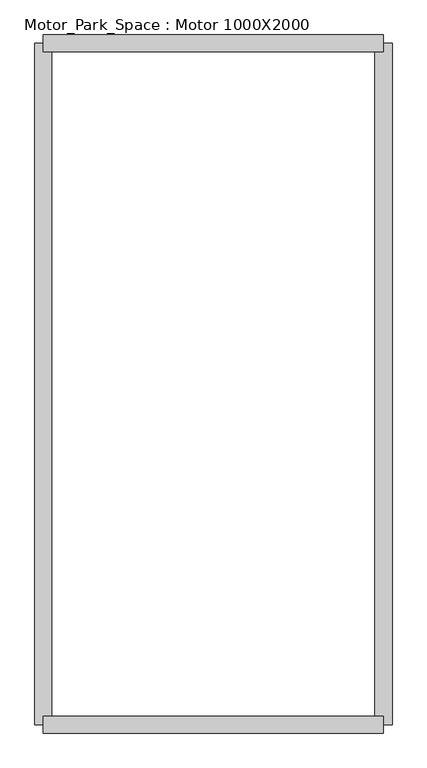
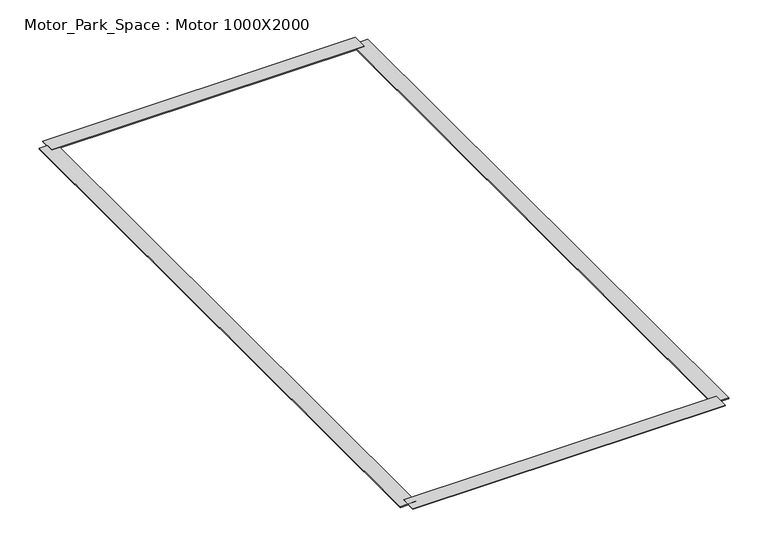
"""IFC4 building model written with IfcOpenShell, lengths in millimetres: proxy geometry, Motor_Park_Space : Motor 1000X2000."""

from ifc_helpers import new_model, si_unit, origin, origin_with_axes, place, context, project, spatial, polyline, outline, extrude, source, transform, mapped, element, save


def motor_park_space_motor_1000x2000_5e893e73(model_context):
    return source(origin(), model_context, "Body", "SweptSolid", [
        extrude(outline(polyline([(1000.0, 1975.0), (0.0, 1975.0), (0.0, 2025.0), (1000.0, 2025.0), (1000.0, 1975.0)])), origin_with_axes(), (0.0, 0.0, 1.0), 3.175),
        extrude(outline(polyline([(1000.0, -25.0), (0.0, -25.0), (0.0, 25.0), (1000.0, 25.0), (1000.0, -25.0)])), origin_with_axes(), (0.0, 0.0, 1.0), 3.175),
        extrude(outline(polyline([(975.0, 0.0), (975.0, 2000.0), (1025.0, 2000.0), (1025.0, 0.0), (975.0, 0.0)])), origin_with_axes(), (0.0, 0.0, 1.0), 3.175),
        extrude(outline(polyline([(-25.0, 0.0), (-25.0, 2000.0), (25.0, 2000.0), (25.0, 0.0), (-25.0, 0.0)])), origin_with_axes(), (0.0, 0.0, 1.0), 3.175),
    ])


if __name__ == "__main__":
    model = new_model("IFC4")
    model_context = context("Model", 3, world=origin())
    ifc_project = project(units=[si_unit("LENGTHUNIT", "METRE", prefix="MILLI")], contexts=[model_context])
    site = spatial("IfcSite", under=ifc_project)
    building = spatial("IfcBuilding", under=site)
    placement = place(None, origin())
    motor_park_space_motor_1000x2000_shape = motor_park_space_motor_1000x2000_5e893e73(model_context)
    element("IfcBuildingElementProxy", 1, Name="Motor_Park_Space : Motor 1000X2000", ObjectType="Motor_Park_Space : Motor 1000X2000", at=placement, inside=building, context=model_context, shape_type="MappedRepresentation", body=[
        mapped(motor_park_space_motor_1000x2000_shape, transform((0.0, 0.0, 0.0), x_axis=(1.0, 0.0, 0.0), y_axis=(0.0, 1.0, 0.0), z_axis=(0.0, 0.0, 1.0))),
    ])
    save(model, "model.ifc")
